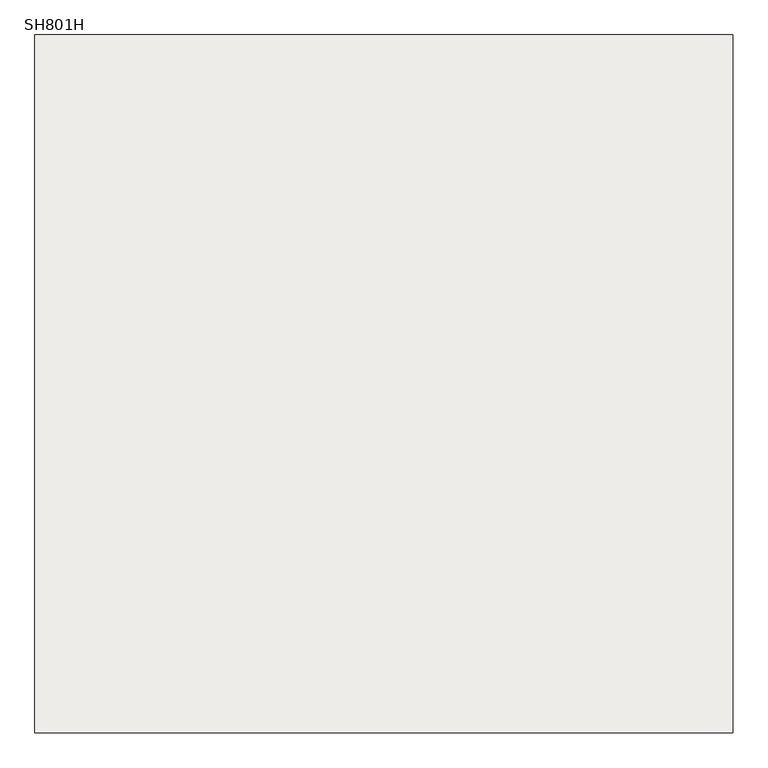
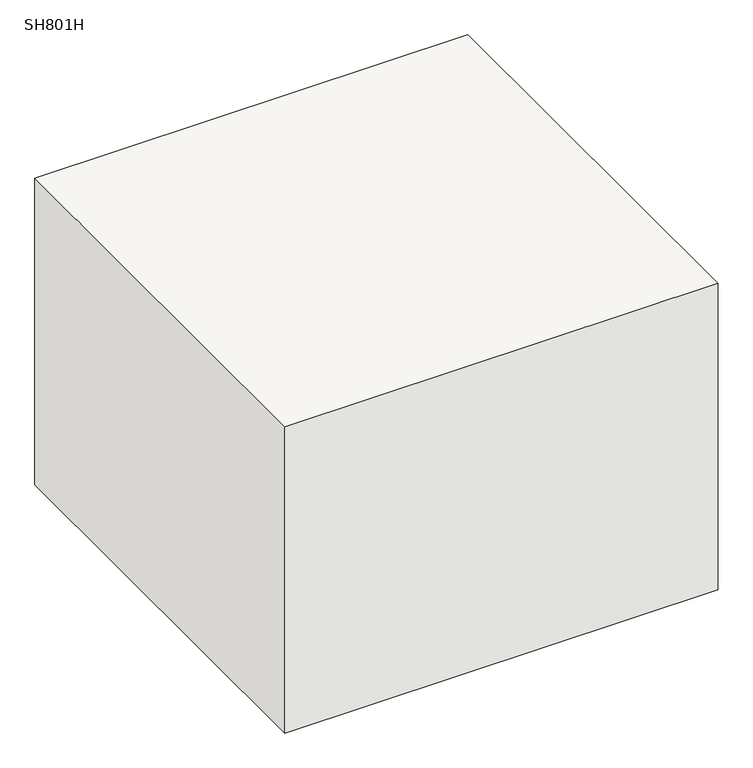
"""IFC4 building model written with IfcOpenShell, lengths in millimetres: slab geometry, 柱形_SH : SH801H."""

from ifc_helpers import new_model, si_unit, frame, origin, place, context, project, spatial, polyline, outline, extrude, source, transform, mapped, element, save


def sh801h_a61c9dea(model_context):
    return source(origin(), model_context, "Body", "SweptSolid", [
        extrude(outline(polyline([(735.0, 735.0), (735.0, -735.0), (-735.0, -735.0), (-735.0, 735.0), (735.0, 735.0)])), frame((0.0, 0.0, -1100.0), z_axis=(0.0, 0.0, 1.0), x_axis=(1.0, 0.0, 0.0)), (0.0, 0.0, 1.0), 1100.0),
    ])


if __name__ == "__main__":
    model = new_model("IFC4")
    model_context = context("Model", 3, world=origin())
    ifc_project = project(units=[si_unit("LENGTHUNIT", "METRE", prefix="MILLI")], contexts=[model_context])
    site = spatial("IfcSite", under=ifc_project)
    building = spatial("IfcBuilding", under=site)
    placement = place(None, origin())
    sh801h_shape = sh801h_a61c9dea(model_context)
    element("IfcSlab", 1, ObjectType="柱形_SH : SH801H", at=placement, inside=building, context=model_context, shape_type="MappedRepresentation", body=[
        mapped(sh801h_shape, transform((0.0, 0.0, 0.0), x_axis=(1.0, 0.0, 0.0), y_axis=(0.0, 1.0, 0.0), z_axis=(0.0, 0.0, 1.0))),
    ])
    save(model, "model.ifc")
